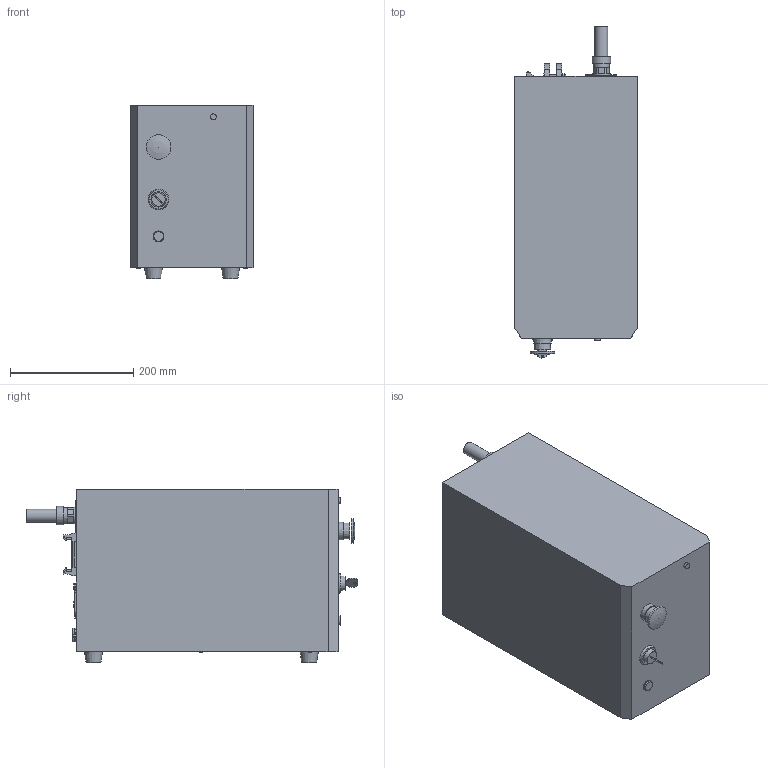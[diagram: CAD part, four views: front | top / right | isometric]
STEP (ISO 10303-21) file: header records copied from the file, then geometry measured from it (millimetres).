
FILE_DESCRIPTION(/* description */ (''),/* implementation_level */ '2;1');
FILE_NAME(/* name */ '',/* time_stamp */ '2025-08-20T14:14:46+09:00',/* author */ (''),/* organization */ (''),/* preprocessor_version */ 'ST-DEVELOPER v20.1',/* originating_system */ 'Autodesk Translation Framework v14.10.0.0',/* authorisation */ '');
FILE_SCHEMA (('AUTOMOTIVE_DESIGN { 1 0 10303 214 3 1 1 }'));
Length unit declared in the file: millimetre
Products named in the file (1): コントローラー　ASSY
Bounding box: 198 x 538.6 x 281 mm (x, y, z)
Volume: 22083406.9 mm3; surface area: 522405.7 mm2
Topology: 1 solids, 1 shells, 354 faces, 904 edges, 601 vertices
Faces by surface type: plane 268, cylinder 68, cone 11, sphere 7
Full cylindrical faces by diameter (mm): 4.5 x1, 5 x2, 6.9 x6, 9.6 x1, 21.1 x1, 25 x1, 27 x1, 30 x1, 40 x1
Entity records: 10912 total; most frequent: CARTESIAN_POINT 1859, ORIENTED_EDGE 1806, DIRECTION 1790, EDGE_CURVE 903, LINE 726, VECTOR 726, VERTEX_POINT 601, AXIS2_PLACEMENT_3D 532
